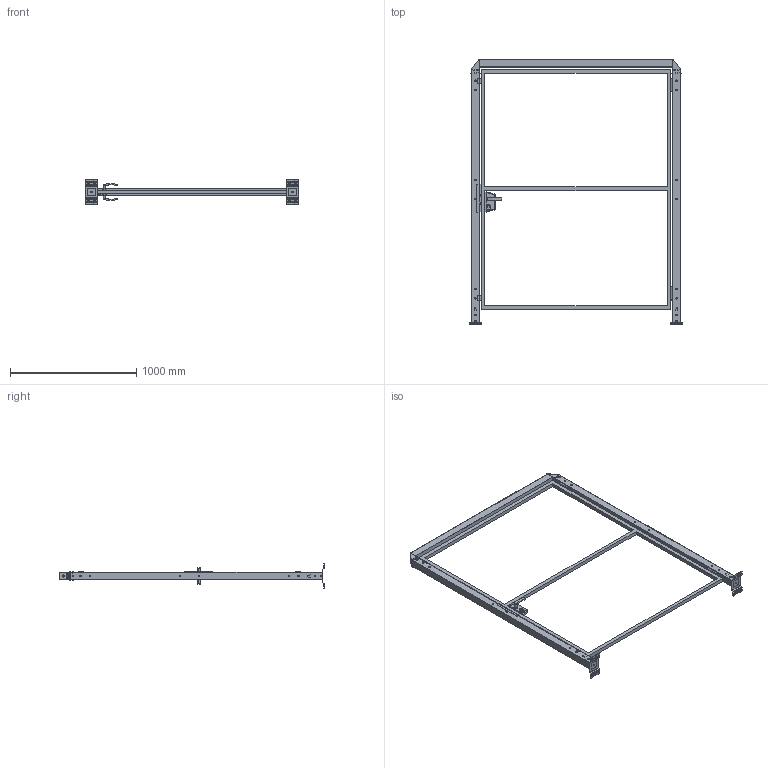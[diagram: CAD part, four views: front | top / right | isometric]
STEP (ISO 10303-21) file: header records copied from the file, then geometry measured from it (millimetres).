
FILE_DESCRIPTION(('STEP AP242'),'1');
FILE_NAME('vfda_bscgd03_15002020.stp','2025-01-31T11:25:27',('TraceParts'),('TraceParts S.A.'),'Spatial InterOp 3D',' ',' ');
FILE_SCHEMA(('AP242_MANAGED_MODEL_BASED_3D_ENGINEERING_MIM_LF {1 0 10303 442 1 1 4}'));
Length unit declared in the file: millimetre
Products named in the file (1): vfda_bscgd03_15002020_1
Bounding box: 1690 x 2101 x 192 mm (x, y, z)
Volume: 10095188.3 mm3; surface area: 3879025 mm2
Topology: 13 solids, 13 shells, 1629 faces, 4331 edges, 2766 vertices
Faces by surface type: plane 807, cylinder 554, bspline 194, cone 46, torus 28
Entity records: 67608 total; most frequent: CARTESIAN_POINT 14334, ORIENTED_EDGE 8662, DIRECTION 7987, EDGE_CURVE 4331, VERTEX_POINT 2766, AXIS2_PLACEMENT_3D 2674, LINE 2639, VECTOR 2639
